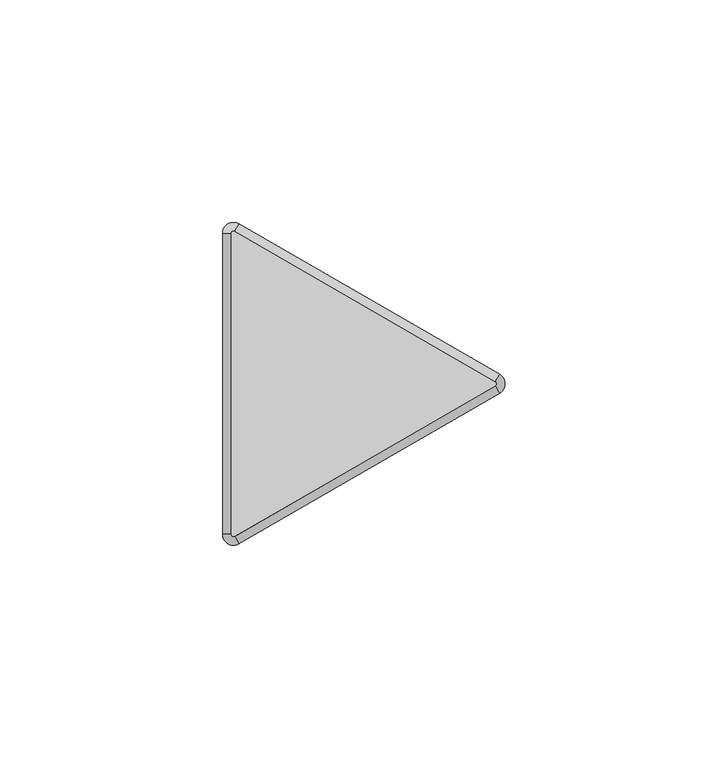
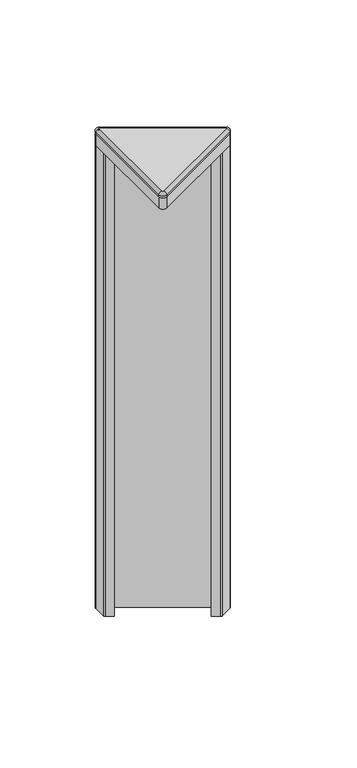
"""IFC4 building model written with IfcOpenShell, lengths in millimetres: furniture geometry, Steelcase - Answer Solution - Panel - 120deg Change-of-Height Trim - Thin : V Corner - 12H for 66H App."""

import ifcopenshell
import ifcopenshell.guid

model = None  # the IFC model being written
_history = None  # IfcOwnerHistory: only IFC2X3 demands one
_inside = {}  # id of a spatial element -> (the spatial element, [elements in it])
_under = {}  # id of a project, library or spatial element -> (it, [spatial elements below it])
_declared = {}  # id of a project -> (the project, [libraries it declares])
_typed = {}  # id of a type object -> (the type object, [elements of that type])
_made_of = {}  # id of a material, layer set ... -> (it, [elements and type objects made of it])


def new_model(schema):
    """Start an empty IFC model of exactly this schema.

    Asked for "IFC4X3", IfcOpenShell would pick the latest addendum, in which some entities
    have other attributes; the version numbers below select the first issue.
    IFC2X3 requires an IfcOwnerHistory on every rooted entity: one is made here for all.
    """
    global model, _history
    if schema == "IFC4X3":
        model = ifcopenshell.file(schema_version=(4, 3, 0, 0))
    else:
        model = ifcopenshell.file(schema=schema)
    _inside.clear()
    _under.clear()
    _declared.clear()
    _typed.clear()
    _made_of.clear()
    _history = None
    if model.schema == "IFC2X3":
        org = make("IfcOrganization", Name="unknown")
        user = make(
            "IfcPersonAndOrganization",
            ThePerson=make("IfcPerson", FamilyName="unknown"),
            TheOrganization=org,
        )
        app = make(
            "IfcApplication",
            ApplicationDeveloper=org,
            Version="unknown",
            ApplicationFullName="unknown",
            ApplicationIdentifier="unknown",
        )
        _history = make(
            "IfcOwnerHistory",
            OwningUser=user,
            OwningApplication=app,
            ChangeAction="ADDED",
            CreationDate=0,
        )
    return model


def make(cls, **values):
    """One entity of the class cls with the attributes given. An attribute that is None is left unset."""
    return model.create_entity(
        cls, **{name: value for name, value in values.items() if value is not None}
    )


def rooted(cls, **values):
    """An entity with a GlobalId (a new one), such as an element, a storey or a relation."""
    return make(cls, GlobalId=ifcopenshell.guid.new(), OwnerHistory=_history, **values)


def si_unit(unit_type, name, prefix=None):
    """IfcSIUnit, for example si_unit("LENGTHUNIT", "METRE", prefix="MILLI")."""
    return make("IfcSIUnit", UnitType=unit_type, Prefix=prefix, Name=name)


def assignment(units):
    """IfcUnitAssignment: the units of a project."""
    return None if units is None else make("IfcUnitAssignment", Units=units)


def point(xyz):
    """IfcCartesianPoint."""
    return None if xyz is None else make("IfcCartesianPoint", Coordinates=xyz)


def direction(xyz):
    """IfcDirection."""
    return None if xyz is None else make("IfcDirection", DirectionRatios=xyz)


def frame(location, z_axis=None, x_axis=None):
    """IfcAxis2Placement3D, a coordinate frame: its origin and axes. An axis left out is left unset."""
    return make(
        "IfcAxis2Placement3D",
        Location=point(location),
        Axis=direction(z_axis),
        RefDirection=direction(x_axis),
    )


def frame_2d(location, x_axis=None):
    """IfcAxis2Placement2D, a coordinate frame in the plane: its origin and x axis."""
    return make(
        "IfcAxis2Placement2D", Location=point(location), RefDirection=direction(x_axis)
    )


def origin():
    """The frame at (0, 0, 0) with its axes left unset."""
    return frame((0.0, 0.0, 0.0))


def place(relative_to, where):
    """IfcLocalPlacement: puts the frame where relative to a parent placement (None: the world)."""
    return make(
        "IfcLocalPlacement", PlacementRelTo=relative_to, RelativePlacement=where
    )


def context(
    kind, dimensions, precision=None, world=None, true_north=None, identifier=None
):
    """IfcGeometricRepresentationContext, for example the 3D "Model" context."""
    return make(
        "IfcGeometricRepresentationContext",
        ContextIdentifier=identifier,
        ContextType=kind,
        CoordinateSpaceDimension=dimensions,
        Precision=precision,
        WorldCoordinateSystem=world,
        TrueNorth=true_north,
    )


def project(units=None, contexts=None):
    """IfcProject with its units and contexts."""
    return rooted(
        "IfcProject",
        Name="project",
        RepresentationContexts=contexts,
        UnitsInContext=assignment(units),
    )


def spatial(cls, under=None, at=None, **own):
    """A site, building, storey or space (cls), placed at a placement, below another one or the project."""
    s = rooted(cls, ObjectPlacement=at, **own)
    if under is not None:
        _under.setdefault(under.id(), (under, []))[1].append(s)
    return s


def polyline(points):
    """IfcPolyline through the points."""
    return make("IfcPolyline", Points=[point(p) for p in points])


def circle_curve(where, radius):
    """IfcCircle in the frame where."""
    return make("IfcCircle", Position=where, Radius=radius)


def ellipse_curve(where, semi_axis1, semi_axis2):
    """IfcEllipse in the frame where."""
    return make(
        "IfcEllipse", Position=where, SemiAxis1=semi_axis1, SemiAxis2=semi_axis2
    )


def trimmed(basis, trim1, trim2, sense, master):
    """IfcTrimmedCurve: the piece of a basis curve between two trims."""
    return make(
        "IfcTrimmedCurve",
        BasisCurve=basis,
        Trim1=trim1,
        Trim2=trim2,
        SenseAgreement=sense,
        MasterRepresentation=master,
    )


def segment(curve, same_sense, transition):
    """IfcCompositeCurveSegment."""
    return make(
        "IfcCompositeCurveSegment",
        Transition=transition,
        SameSense=same_sense,
        ParentCurve=curve,
    )


def composite_curve(segments, self_intersect=None):
    """IfcCompositeCurve: segments joined end to end."""
    return make("IfcCompositeCurve", Segments=segments, SelfIntersect=self_intersect)


def outline(outer, holes=None, kind="AREA"):
    """IfcArbitraryClosedProfileDef: a profile drawn as a closed curve; with holes, ...WithVoids."""
    if holes is None:
        return make("IfcArbitraryClosedProfileDef", ProfileType=kind, OuterCurve=outer)
    return make(
        "IfcArbitraryProfileDefWithVoids",
        ProfileType=kind,
        OuterCurve=outer,
        InnerCurves=holes,
    )


def extrude(swept, where, along, depth):
    """IfcExtrudedAreaSolid: the profile swept, set in the frame where, extruded along a direction by depth."""
    return make(
        "IfcExtrudedAreaSolid",
        SweptArea=swept,
        Position=where,
        ExtrudedDirection=direction(along),
        Depth=depth,
    )


def shape(context_of_items, identifier, shape_type, items):
    """IfcShapeRepresentation: the items that make up one representation, for example the "Body"."""
    return make(
        "IfcShapeRepresentation",
        ContextOfItems=context_of_items,
        RepresentationIdentifier=identifier,
        RepresentationType=shape_type,
        Items=items,
    )


def source(mapping_origin, context_of_items, identifier, shape_type, items):
    """IfcRepresentationMap: a shape defined once, which mapped items show again and again."""
    return make(
        "IfcRepresentationMap",
        MappingOrigin=mapping_origin,
        MappedRepresentation=shape(context_of_items, identifier, shape_type, items),
    )


def transform(
    local_origin,
    x_axis=None,
    y_axis=None,
    z_axis=None,
    scale=None,
    scale2=None,
    scale3=None,
    uniform=True,
):
    """IfcCartesianTransformationOperator3D, or its non-uniform kind. x_axis, y_axis, z_axis: its Axis1, 2, 3."""
    if uniform:
        return make(
            "IfcCartesianTransformationOperator3D",
            Axis1=direction(x_axis),
            Axis2=direction(y_axis),
            LocalOrigin=point(local_origin),
            Scale=scale,
            Axis3=direction(z_axis),
        )
    return make(
        "IfcCartesianTransformationOperator3DnonUniform",
        Axis1=direction(x_axis),
        Axis2=direction(y_axis),
        LocalOrigin=point(local_origin),
        Scale=scale,
        Axis3=direction(z_axis),
        Scale2=scale2,
        Scale3=scale3,
    )


def mapped(mapping_source, mapping_target):
    """IfcMappedItem: shows the shape of a source again, moved by a transform."""
    return make(
        "IfcMappedItem", MappingSource=mapping_source, MappingTarget=mapping_target
    )


def made_of(thing, what):
    """Note that an element or type object is made of a material, layer set ...; save() writes the relation."""
    if what is not None:
        _made_of.setdefault(what.id(), (what, []))[1].append(thing)
    return thing


def element(
    cls,
    number,
    at=None,
    inside=None,
    cuts=None,
    type_object=None,
    material=None,
    context=None,
    identifier="Body",
    shape_type=None,
    held_by="IfcProductDefinitionShape",
    body=None,
    shapes=None,
    **own,
):
    """One element of the class cls, such as IfcWall. Its Tag is "e" and its number.

    at: its placement. inside: the storey or other place that contains it. cuts: it is an
    opening in that element (IfcRelVoidsElement). A single representation is given by context,
    identifier, shape_type and body (its items); several are given by shapes. held_by: the class
    of the entity that holds the representations. save() writes the other relations.
    """
    e = rooted(cls, Tag="e%d" % number, ObjectPlacement=at, **own)
    if body is not None:
        shapes = [shape(context, identifier, shape_type, body)]
    if shapes is not None:
        e.Representation = make(held_by, Representations=shapes)
    if inside is not None:
        _inside.setdefault(inside.id(), (inside, []))[1].append(e)
    if cuts is not None:
        rooted(
            "IfcRelVoidsElement", RelatingBuildingElement=cuts, RelatedOpeningElement=e
        )
    if type_object is not None:
        _typed.setdefault(type_object.id(), (type_object, []))[1].append(e)
    return made_of(e, material)


def aggregate(whole, parts):
    """IfcRelAggregates: a whole, such as a stair, and the parts it consists of."""
    return rooted("IfcRelAggregates", RelatingObject=whole, RelatedObjects=parts)


def save(model, path):
    """Write the relations noted so far, then the file.

    IfcRelAggregates (storeys below a building ...), IfcRelContainedInSpatialStructure (elements
    in a storey), IfcRelDefinesByType, IfcRelAssociatesMaterial and IfcRelDeclares: one each for
    every whole, place, type object, material and project.
    """
    for whole, parts in _under.values():
        aggregate(whole, parts)
    for where, things in _inside.values():
        rooted(
            "IfcRelContainedInSpatialStructure",
            RelatedElements=things,
            RelatingStructure=where,
        )
    for kind, things in _typed.values():
        rooted("IfcRelDefinesByType", RelatedObjects=things, RelatingType=kind)
    for what, things in _made_of.values():
        rooted("IfcRelAssociatesMaterial", RelatedObjects=things, RelatingMaterial=what)
    for by, libraries in _declared.values():
        rooted("IfcRelDeclares", RelatingContext=by, RelatedDefinitions=libraries)
    model.write(path)


def plane_surface(at):
    """IfcPlane: the flat surface through the origin of the frame at, square to its z axis."""
    return make("IfcPlane", Position=at)


def cylinder_surface(at, radius):
    """IfcCylindricalSurface: all points at the distance radius from the z axis of the frame at."""
    return make("IfcCylindricalSurface", Position=at, Radius=radius)


def revolved_surface(curve, axis_point, axis_direction):
    """IfcSurfaceOfRevolution: the curve turned about the line through axis_point along axis_direction."""
    return make(
        "IfcSurfaceOfRevolution",
        SweptCurve=make("IfcArbitraryOpenProfileDef", ProfileType="CURVE", Curve=curve),
        AxisPosition=make("IfcAxis1Placement", Location=point(axis_point), Axis=direction(axis_direction)),
    )


def advanced_brep(points, edges, surfaces, faces):
    """IfcAdvancedBrep: a solid bounded by faces that lie on surfaces and meet in shared edges.

    An edge is (start, end): straight between two places in points (the first is 0);
    or (start, end, curve); or (start, end, curve, False) where it runs against its curve.
    A face is (place in surfaces, loops), or (place, loops, False) where it looks against
    its surface's normal. A loop lists edges by number (the first is 1), with a minus sign
    where the edge is run from its end to its start. The first loop is the outer one.
    """
    corners = [point(p) for p in points]
    vertices = [make("IfcVertexPoint", VertexGeometry=c) for c in corners]
    made = []
    for start, end, *more in edges:
        made.append(
            make(
                "IfcEdgeCurve",
                EdgeStart=vertices[start],
                EdgeEnd=vertices[end],
                EdgeGeometry=more[0] if more else make("IfcPolyline", Points=[corners[start], corners[end]]),
                SameSense=more[1] if len(more) > 1 else True,
            )
        )
    hull = []
    for where, loops, *sense in faces:
        bounds = []
        for j, loop in enumerate(loops):
            ring = [make("IfcOrientedEdge", EdgeElement=made[abs(k) - 1], Orientation=k > 0) for k in loop]
            bounds.append(
                make(
                    "IfcFaceOuterBound" if j == 0 else "IfcFaceBound",
                    Bound=make("IfcEdgeLoop", EdgeList=ring),
                    Orientation=True,
                )
            )
        hull.append(make("IfcAdvancedFace", Bounds=bounds, FaceSurface=surfaces[where], SameSense=sense[0] if sense else True))
    return make("IfcAdvancedBrep", Outer=make("IfcClosedShell", CfsFaces=hull))


def furniture_74114085(model_context):
    return source(origin(), model_context, "Body", "SolidModel", [
        advanced_brep(
        [(-10.518645, -37.3335529, 1678.0688978), (-14.2052101, -35.2051135, 1678.0688978), (-14.2052101, -35.2051135, 1677.1224663), (-10.518645, -37.3335529, 1677.1224663), (-11.46175, -35.7000471, 1679.956), (-12.319, -35.2051135, 1679.956), (-11.46175, -35.7000471, 1677.1224663), (-12.319, -35.2051135, 1677.1224663), (48.0429908, -3.5229767, 1677.1224663), (48.0429908, -3.5229767, 1678.0688978), (47.0998858, -1.8894709, 1679.956), (47.0998858, -1.8894709, 1677.1224663), (48.0429908, 0.733902, 1678.0688978), (48.0429908, 0.733902, 1677.1224663), (47.0998858, -0.8996038, 1679.956), (47.0998858, -0.8996038, 1677.1224663), (-10.518645, 34.5444782, 1677.1224663), (-14.2052101, 32.4160388, 1677.1224663), (-11.46175, 32.9109723, 1677.1224663), (-12.319, 32.4160388, 1677.1224663), (-10.518645, 34.5444782, 1678.0688978), (-11.46175, 32.9109723, 1679.956), (-14.2052101, 32.4160388, 1678.0688978), (-12.319, 32.4160388, 1679.956)],
        [
            (0, 1, circle_curve(frame((-11.7475, -35.2051135, 1678.0688978), z_axis=(0.0, 0.0, -1.0), x_axis=(-1.0, 0.0, 0.0)), 2.4577101)),
            (1, 2),
            (2, 3, circle_curve(frame((-11.7475, -35.2051135, 1677.1224663), z_axis=(0.0, 0.0, 1.0), x_axis=(-1.0, 0.0, 0.0)), 2.4577101)),
            (3, 0),
            (4, 5, circle_curve(frame((-11.7475, -35.2051135, 1679.956), z_axis=(0.0, 0.0, -1.0), x_axis=(-1.0, 0.0, 0.0)), 0.5715)),
            (5, 1, circle_curve(frame((-12.3181076, -35.2051135, 1678.0688978), z_axis=(0.0, -1.0, 0.0), x_axis=(1.0, 0.0, 0.0)), 1.8871024)),
            (0, 4, circle_curve(frame((-11.4621962, -35.6992743, 1678.0688978), z_axis=(-0.8660254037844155, -0.50000000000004, 0.0), x_axis=(-0.50000000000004, 0.8660254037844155, 0.0)), 1.8871024)),
            (6, 7, circle_curve(frame((-11.7475, -35.2051135, 1677.1224663), z_axis=(0.0, 0.0, -1.0), x_axis=(-1.0, 0.0, 0.0)), 0.5715)),
            (7, 5),
            (4, 6),
            (3, 8),
            (8, 9),
            (9, 0),
            (9, 10, circle_curve(frame((47.0994396, -1.8886981, 1678.0688978), z_axis=(-0.8660254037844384, -0.5000000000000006, 0.0), x_axis=(-0.5000000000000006, 0.8660254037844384, 0.0)), 1.8871024)),
            (10, 4),
            (10, 11),
            (11, 6),
            (12, 9, circle_curve(frame((46.8141358, -1.3945374, 1678.0688978), z_axis=(0.0, 0.0, -1.0), x_axis=(0.4999999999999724, -0.8660254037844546, 0.0)), 2.4577101)),
            (8, 13, circle_curve(frame((46.8141358, -1.3945374, 1677.1224663), z_axis=(0.0, 0.0, 1.0), x_axis=(0.4999999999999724, -0.8660254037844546, 0.0)), 2.4577101)),
            (13, 12),
            (14, 10, circle_curve(frame((46.8141358, -1.3945374, 1679.956), z_axis=(0.0, 0.0, -1.0), x_axis=(0.4999999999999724, -0.8660254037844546, 0.0)), 0.5715)),
            (12, 14, circle_curve(frame((47.0994396, -0.9003766, 1678.0688978), z_axis=(0.866025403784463, -0.4999999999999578, 0.0), x_axis=(-0.4999999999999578, -0.866025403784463, 0.0)), 1.8871024)),
            (15, 11, circle_curve(frame((46.8141358, -1.3945374, 1677.1224663), z_axis=(0.0, 0.0, -1.0), x_axis=(0.4999999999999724, -0.8660254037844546, 0.0)), 0.5715)),
            (14, 15),
            (16, 13),
            (2, 17),
            (17, 16, circle_curve(frame((-11.7475, 32.4160388, 1677.1224663), z_axis=(0.0, 0.0, -1.0), x_axis=(0.500000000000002, 0.8660254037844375, 0.0)), 2.4577101)),
            (15, 18),
            (18, 19, circle_curve(frame((-11.7475, 32.4160388, 1677.1224663), z_axis=(0.0, 0.0, 1.0), x_axis=(0.500000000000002, 0.8660254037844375, 0.0)), 0.5715)),
            (19, 7),
            (16, 20),
            (20, 12),
            (20, 21, circle_curve(frame((-11.4621962, 32.9101995, 1678.0688978), z_axis=(0.8660254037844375, -0.5000000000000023, 0.0), x_axis=(-0.5000000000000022, -0.8660254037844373, 0.0)), 1.8871024)),
            (21, 14),
            (21, 18),
            (22, 20, circle_curve(frame((-11.7475, 32.4160388, 1678.0688978), z_axis=(0.0, 0.0, -1.0), x_axis=(0.500000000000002, 0.8660254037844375, 0.0)), 2.4577101)),
            (17, 22),
            (23, 21, circle_curve(frame((-11.7475, 32.4160388, 1679.956), z_axis=(0.0, 0.0, -1.0), x_axis=(0.500000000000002, 0.8660254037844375, 0.0)), 0.5715)),
            (22, 23, circle_curve(frame((-12.3181076, 32.4160388, 1678.0688978), z_axis=(0.0, 1.0, 0.0), x_axis=(1.0, 0.0, 0.0)), 1.8871024)),
            (23, 19),
            (1, 22),
            (5, 23),
        ],
        [
            cylinder_surface(frame((-11.7475, -35.2051135, 0.0), z_axis=(0.0, 0.0, 1.0), x_axis=(-1.0, 0.0, 0.0)), 2.4577101),
            revolved_surface(trimmed(ellipse_curve(frame((-12.3181076, -35.2051135, 1678.0688978), z_axis=(0.0, 1.0, 0.0), x_axis=(1.0, 0.0, 0.0)), 1.8871024, 1.8871024), [point((-14.2052101, -35.2051135, 1678.0688978))], [point((-12.319, -35.2051135, 1679.956))], True, "CARTESIAN"), (-11.7475, -35.2051135, 0.0), (0.0, 0.0, 1.0)),
            revolved_surface(polyline([(-12.319, -35.2051135, 1679.956), (-12.319, -35.2051135, 1677.1224663)]), (-11.7475, -35.2051135, 0.0), (0.0, 0.0, 1.0)),
            plane_surface(frame((-10.518645, -37.3335529, 1677.1224663), z_axis=(0.5000000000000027, -0.8660254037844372, 0.0), x_axis=(0.8660254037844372, 0.5000000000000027, 0.0))),
            cylinder_surface(frame((-11.4621962, -35.6992743, 1678.0688978), z_axis=(-0.8660254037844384, -0.5000000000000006, 0.0), x_axis=(-0.5000000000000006, 0.8660254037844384, 0.0)), 1.8871024),
            plane_surface(frame((-11.46175, -35.7000471, 1679.956), z_axis=(-0.5000000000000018, 0.8660254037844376, 0.0), x_axis=(0.8660254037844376, 0.5000000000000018, 0.0))),
            cylinder_surface(frame((46.8141358, -1.3945374, 0.0), z_axis=(0.0, 0.0, 1.0), x_axis=(0.4999999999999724, -0.8660254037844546, 0.0)), 2.4577101),
            revolved_surface(trimmed(ellipse_curve(frame((47.0994396, -1.8886981, 1678.0688978), z_axis=(-0.8660254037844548, -0.499999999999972, 0.0), x_axis=(-0.499999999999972, 0.8660254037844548, 0.0)), 1.8871024, 1.8871024), [point((48.0429908, -3.5229767, 1678.0688978))], [point((47.0998858, -1.8894709, 1679.956))], True, "CARTESIAN"), (46.8141358, -1.3945374, 0.0), (0.0, 0.0, 1.0)),
            revolved_surface(polyline([(47.09988579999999, -1.8894709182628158, 1679.956), (47.09988579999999, -1.8894709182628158, 1677.1224663)]), (46.8141358, -1.3945374, 0.0), (0.0, 0.0, 1.0)),
            plane_surface(frame((47.0998858, -0.8996038, 1677.1224663), z_axis=(0.0, 0.0, -1.0), x_axis=(-0.8660254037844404, 0.49999999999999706, 0.0))),
            plane_surface(frame((48.0429908, 0.733902, 1677.1224663), z_axis=(0.500000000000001, 0.8660254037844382, 0.0), x_axis=(-0.8660254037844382, 0.500000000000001, 0.0))),
            cylinder_surface(frame((47.0994396, -0.9003766, 1678.0688978), z_axis=(0.8660254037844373, -0.5000000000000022, 0.0), x_axis=(-0.5000000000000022, -0.8660254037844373, 0.0)), 1.8871024),
            plane_surface(frame((47.0998858, -0.8996038, 1679.956), z_axis=(-0.49999999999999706, -0.8660254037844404, 0.0), x_axis=(-0.8660254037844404, 0.49999999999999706, 0.0))),
            cylinder_surface(frame((-11.7475, 32.4160388, 0.0), z_axis=(0.0, 0.0, 1.0), x_axis=(0.500000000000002, 0.8660254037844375, 0.0)), 2.4577101),
            revolved_surface(trimmed(ellipse_curve(frame((-11.4621962, 32.9101995, 1678.0688978), z_axis=(0.866025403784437, -0.5000000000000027, 0.0), x_axis=(-0.5000000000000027, -0.866025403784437, 0.0)), 1.8871024, 1.8871024), [point((-10.518645, 34.5444782, 1678.0688978))], [point((-11.46175, 32.9109723, 1679.956))], True, "CARTESIAN"), (-11.7475, 32.4160388, 0.0), (0.0, 0.0, 1.0)),
            revolved_surface(polyline([(-11.461749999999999, 32.91097231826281, 1679.956), (-11.461749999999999, 32.91097231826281, 1677.1224663)]), (-11.7475, 32.4160388, 0.0), (0.0, 0.0, 1.0)),
            plane_surface(frame((-14.2052101, 32.4160388, 1677.1224663), z_axis=(-1.0, 0.0, 0.0), x_axis=(0.0, -1.0, 0.0))),
            cylinder_surface(frame((-12.3181076, 32.4160388, 1678.0688978), z_axis=(0.0, 1.0, 0.0), x_axis=(1.0, 0.0, 0.0)), 1.8871024),
            plane_surface(frame((-12.319, 32.4160388, 1679.956), z_axis=(1.0, 0.0, 0.0), x_axis=(0.0, -1.0, 0.0))),
        ],
        [
            (0, [[1, 2, 3, 4]]),
            (1, [[5, 6, -1, 7]]),
            (2, [[8, 9, -5, 10]]),
            (3, [[-4, 11, 12, 13]]),
            (4, [[-7, -13, 14, 15]]),
            (5, [[-10, -15, 16, 17]]),
            (6, [[18, -12, 19, 20]]),
            (7, [[21, -14, -18, 22]]),
            (8, [[23, -16, -21, 24]]),
            (9, [[25, -19, -11, -3, 26, 27], [-8, -17, -23, 28, 29, 30]]),
            (10, [[-20, -25, 31, 32]]),
            (11, [[-22, -32, 33, 34]]),
            (12, [[-24, -34, 35, -28]]),
            (13, [[36, -31, -27, 37]]),
            (14, [[38, -33, -36, 39]]),
            (15, [[-29, -35, -38, 40]]),
            (16, [[-37, -26, -2, 41]]),
            (17, [[-39, -41, -6, 42]]),
            (18, [[-40, -42, -9, -30]]),
        ],
    ),
        extrude(outline(composite_curve([segment(trimmed(circle_curve(frame_2d((46.8261011, -1.3945374)), 0.5655173), [point((47.1088598, -0.904785))], [point((47.1088598, -1.8842897))], False, "CARTESIAN"), True, "CONTINUOUS"), segment(polyline([(47.1088598, -1.8842897), (-11.4505119, -35.6935587)]), True, "CONTINUOUS"), segment(trimmed(circle_curve(frame_2d((-11.7400079, -35.1921369)), 0.5789921), [point((-11.4505119, -35.6935587))], [point((-12.319, -35.1921369))], False, "CARTESIAN"), True, "CONTINUOUS"), segment(polyline([(-12.319, -35.1921369), (-12.319, 32.3985888)]), True, "CONTINUOUS"), segment(trimmed(circle_curve(frame_2d((-11.7374252, 32.3985888)), 0.5815748), [point((-12.319, 32.3985888))], [point((-11.4466378, 32.9022473))], False, "CARTESIAN"), True, "CONTINUOUS"), segment(polyline([(-11.4466378, 32.9022473), (47.1088598, -0.904785)]), True, "CONTINUOUS")], self_intersect=False)), frame((0.0, 0.0, 1677.1224663), z_axis=(0.0, 0.0, 1.0), x_axis=(1.0, 0.0, 0.0)), (0.0, 0.0, 1.0), 2.8335337),
        extrude(outline(composite_curve([segment(trimmed(circle_curve(frame_2d((47.9608454, -1.3945374)), 1.2935425), [point((48.6076166, -0.2742967))], [point((48.6076166, -2.514778))], False, "CARTESIAN"), True, "CONTINUOUS"), segment(polyline([(48.6076166, -2.514778), (41.722656, -6.4898119)]), True, "CONTINUOUS"), segment(trimmed(circle_curve(frame_2d((41.0991304, -5.4098338)), 1.2470513), [point((41.722656, -6.4898119))], [point((40.4756048, -6.4898119))], False, "CARTESIAN"), True, "CONTINUOUS"), segment(polyline([(40.4756048, -6.4898119), (36.3239304, -4.0928416), (36.7811304, -3.300948), (41.0991304, -5.7939464), (47.3502407, -2.1848662)]), True, "CONTINUOUS"), segment(trimmed(circle_curve(frame_2d((46.8939441, -1.3945374)), 0.9125932), [point((47.3502407, -2.1848662))], [point((47.3502407, -0.6042085))], True, "CARTESIAN"), True, "CONTINUOUS"), segment(polyline([(47.3502407, -0.6042085), (-11.3312768, 33.2755814)]), True, "CONTINUOUS"), segment(trimmed(circle_curve(frame_2d((-11.7875179, 32.4853487)), 0.9124821), [point((-11.3312768, 33.2755814))], [point((-12.7, 32.4853487))], True, "CARTESIAN"), True, "CONTINUOUS"), segment(polyline([(-12.7, 32.4853487), (-12.7, 25.266996), (-8.382, 22.7739975), (-8.8392, 21.9821039), (-12.9583282, 24.3602837)]), True, "CONTINUOUS"), segment(trimmed(circle_curve(frame_2d((-12.3022565, 25.4966333)), 1.3121435), [point((-12.9583282, 24.3602837))], [point((-13.6144, 25.4966333))], False, "CARTESIAN"), True, "CONTINUOUS"), segment(polyline([(-13.6144, 25.4966333), (-13.6144, 33.3957138)]), True, "CONTINUOUS"), segment(trimmed(circle_curve(frame_2d((-12.3131174, 33.3957138)), 1.3012826), [point((-13.6144, 33.3957138))], [point((-11.6624761, 34.5226576))], False, "CARTESIAN"), True, "CONTINUOUS"), segment(polyline([(-11.6624761, 34.5226576), (48.6076166, -0.2742967)]), True, "CONTINUOUS")], self_intersect=False)), frame((0.0, 0.0, 1366.012), z_axis=(0.0, 0.0, 1.0), x_axis=(1.0, 0.0, 0.0)), (0.0, 0.0, 1.0), 303.784),
        extrude(outline(composite_curve([segment(trimmed(circle_curve(frame_2d((46.8140443, -1.3945374)), 2.4577558), [point((48.0429222, 0.7339416))], [point((48.0429222, -3.5230163))], False, "CARTESIAN"), True, "CONTINUOUS"), segment(polyline([(48.0429222, -3.5230163), (-10.518058, -37.333214)]), True, "CONTINUOUS"), segment(trimmed(circle_curve(frame_2d((-11.7471087, -35.2044357)), 2.4581014), [point((-10.518058, -37.333214))], [point((-14.2052101, -35.2044357))], False, "CARTESIAN"), True, "CONTINUOUS"), segment(polyline([(-14.2052101, -35.2044357), (-14.2052101, 32.4160388)]), True, "CONTINUOUS"), segment(trimmed(circle_curve(frame_2d((-11.7475, 32.4160388)), 2.4577101), [point((-14.2052101, 32.4160388))], [point((-10.518645, 34.5444782))], False, "CARTESIAN"), True, "CONTINUOUS"), segment(polyline([(-10.518645, 34.5444782), (48.0429222, 0.7339416)]), True, "CONTINUOUS")], self_intersect=False)), frame((0.0, 0.0, 1669.796), z_axis=(0.0, 0.0, 1.0), x_axis=(1.0, 0.0, 0.0)), (0.0, 0.0, 1.0), 7.3264663),
    ])


if __name__ == "__main__":
    model = new_model("IFC4")
    model_context = context("Model", 3, world=origin())
    ifc_project = project(units=[si_unit("LENGTHUNIT", "METRE", prefix="MILLI")], contexts=[model_context])
    site = spatial("IfcSite", under=ifc_project)
    building = spatial("IfcBuilding", under=site)
    placement = place(None, origin())
    furniture_shape = furniture_74114085(model_context)
    element("IfcFurniture", 1, ObjectType="Steelcase - Answer Solution - Panel - 120deg Change-of-Height Trim - Thin : V Corner - 12H for 66H App", at=placement, inside=building, context=model_context, shape_type="MappedRepresentation", body=[
        mapped(furniture_shape, transform((0.0, 0.0, 0.0), x_axis=(1.0, 0.0, 0.0), y_axis=(0.0, 1.0, 0.0), z_axis=(0.0, 0.0, 1.0))),
    ])
    save(model, "model.ifc")
